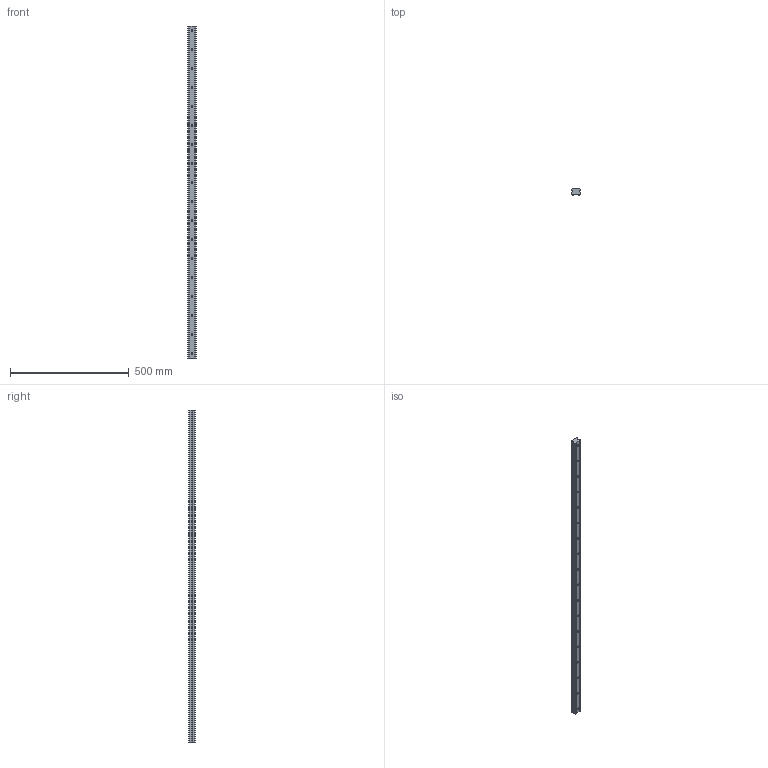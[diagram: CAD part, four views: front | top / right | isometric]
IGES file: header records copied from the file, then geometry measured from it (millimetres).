
Start section: SolidWorks IGES file using analytic representation for surfaces
Global section: file name: C:\Users\IanO\Desktop\Temp File\GENERAL\L1016_v2\L1016.RF35_v2\L1016.RF35_v2_20190612_IGES\L1016.RF35-1400.igs; native system: SolidWorks 2017; preprocessor: SolidWorks 2017; author: IanO; date: 190613.172738; units: millimetre
Bounding box: 34 x 26 x 1400 mm (x, y, z)
Surface area: 183321.3 mm2 (no closed solid volume)
Topology: 0 solids, 0 shells, 152 faces, 2328 edges, 2292 vertices
Faces by surface type: revolution 112, bspline 40
